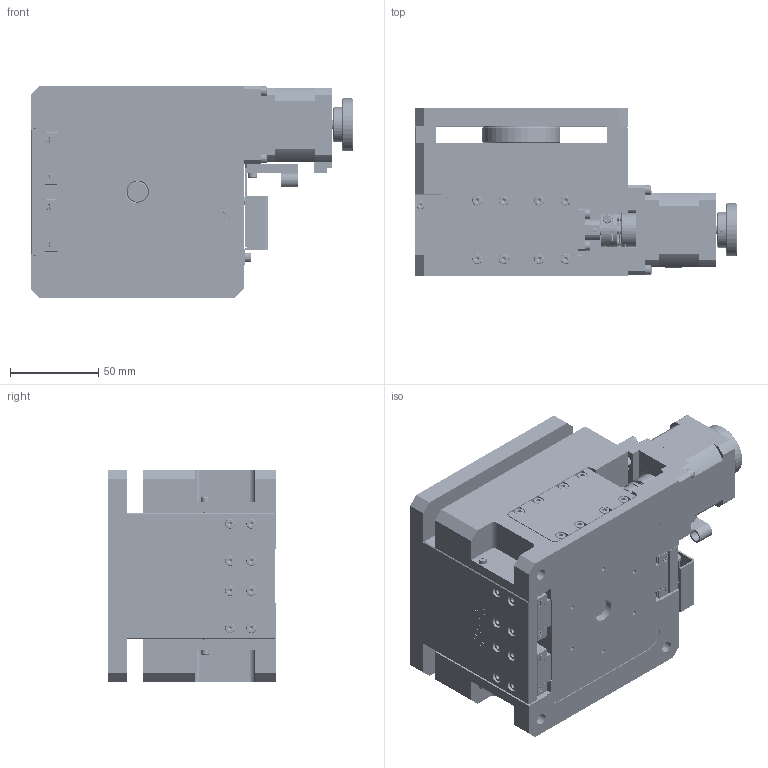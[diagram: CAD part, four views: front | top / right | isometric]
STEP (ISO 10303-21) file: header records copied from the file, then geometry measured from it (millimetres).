
FILE_DESCRIPTION (( 'STEP AP203' ), '1' );
FILE_NAME ('CZF20-120.STEP', '2026-07-06T02:52:48', ( 'Windows 蚚誧' ), ( 'Organization' ), 'SwSTEP 2.0', 'SolidWorks 2021', '' );
FILE_SCHEMA (( 'CONFIG_CONTROL_DESIGN' ));
Length unit declared in the file: millimetre
Products named in the file (40): TBRF75L-04-恘裝殤; CZF20-120-13-恘裝; deep groove ball bearings gb_Rolling bearings 619-6 GB 276-94; CZF20-120; hexagon socket head cap screws gb_GB_FASTENER_SCREWS_HSHCS M3X6-N; hexagon socket head cap screws gb_GB_FASTENER_SCREWS_HSHCS M3X8-N; hexagon socket head cap screws gb_GB_FASTENER_SCREWS_HSHCS M2.5X8-N; hexagon socket head cap screws gb_GB_FASTENER_SCREWS_HSHCS M3X12-N; CZF20-120-10-粣創傷裔; hexagon socket head cap screws gb_GB_FASTENER_SCREWS_HSHCS M3X16-N; CZF20-120-02-怢醱; hexagon socket head cap screws gb_GB_FASTENER_SCREWS_HSHCS M3X10-N; M2.5X10+6-肣蹟翐; cross recessed cheese head screws type a gb_GB_CROSS_SCREWS_TYPE135 M3X4-N; XRU2012; angular contact ball bearings gb_Rolling bearings S706 GB 292-94; CZF20-120-01-菁釱; CZF20-120-14-盄擢嘐隅啣; CZF20-120-03-湮耜啣; TBX30-90-11-忒謫; CZF20-120-11-癹弇裔啣; hexagon socket head cap screws gb_GB_FASTENER_SCREWS_HSHCS M4X6-N; hexagon socket head cap screws gb_GB_FASTENER_SCREWS_HSHCS M4X16-N; CZF20-120-09-42萇儂啣; plain washers--product grade c gb_GB_FASTENER_WASHER_SMWC 4; MSD9M-20130320-絳寢; CZF20-120-08-佪話坶譫; CZF20-120-05-恘謫; 8.4R-R倰盄諶; MSD9M-20130320-賑輸; CZF20-120-06-幗紩佪話; TBRF75L-07-坶譫; CZF20-120-07-蛌諉啣; LK5-C19-0505; CZF20-120-04-苤耜啣; SFV01205-佪話蹟譫-TBI; CZF20-120-D1.0; hexagon socket head cap screws gb_GB_FASTENER_SCREWS_HSHCS M3X5-N; SST43D2126-10-陓襯42祭輛萇儂; CZF20-120-12-嫖戲え
Assembly tree (107 placements, depth 2):
  CZF20-120
    CZF20-120-01-菁釱
    CZF20-120-02-怢醱
    CZF20-120-03-湮耜啣
    CZF20-120-04-苤耜啣
    CZF20-120-05-恘謫
    CZF20-120-06-幗紩佪話
    SFV01205-佪話蹟譫-TBI
    CZF20-120-07-蛌諉啣
    CZF20-120-08-佪話坶譫
    CZF20-120-09-42萇儂啣
    CZF20-120-10-粣創傷裔
    CZF20-120-11-癹弇裔啣
    CZF20-120-12-嫖戲え
    CZF20-120-13-恘裝
    CZF20-120-14-盄擢嘐隅啣
    MSD9M-20130320-絳寢  x3
    MSD9M-20130320-賑輸  x3
    TBRF75L-04-恘裝殤
    TBRF75L-07-坶譫
    TBX30-90-11-忒謫
    XRU2012
    deep groove ball bearings gb_Rolling bearings 619-6 GB 276-94
    angular contact ball bearings gb_Rolling bearings S706 GB 292-94  x2
    M2.5X10+6-肣蹟翐  x2
    LK5-C19-0505
    hexagon socket head cap screws gb_GB_FASTENER_SCREWS_HSHCS M4X16-N  x4
    SST43D2126-10-陓襯42祭輛萇儂
    hexagon socket head cap screws gb_GB_FASTENER_SCREWS_HSHCS M3X16-N  x23
    hexagon socket head cap screws gb_GB_FASTENER_SCREWS_HSHCS M2.5X8-N  x2
    cross recessed cheese head screws type a gb_GB_CROSS_SCREWS_TYPE135 M3X4-N  x2
    hexagon socket head cap screws gb_GB_FASTENER_SCREWS_HSHCS M3X5-N  x2
    hexagon socket head cap screws gb_GB_FASTENER_SCREWS_HSHCS M3X6-N  x12
    hexagon socket head cap screws gb_GB_FASTENER_SCREWS_HSHCS M3X10-N  x6
    hexagon socket head cap screws gb_GB_FASTENER_SCREWS_HSHCS M3X12-N  x6
    hexagon socket head cap screws gb_GB_FASTENER_SCREWS_HSHCS M3X8-N  x14
    8.4R-R倰盄諶
    plain washers--product grade c gb_GB_FASTENER_WASHER_SMWC 4
    hexagon socket head cap screws gb_GB_FASTENER_SCREWS_HSHCS M4X6-N
    CZF20-120-D1.0
Bounding box: 181.88 x 95 x 120 mm (x, y, z)
Volume: 1129446 mm3; surface area: 302280.8 mm2
Topology: 107 solids, 130 shells, 5740 faces, 14981 edges, 9432 vertices
Faces by surface type: plane 2745, cylinder 1736, cone 700, torus 290, bspline 195, sphere 74
Entity records: 140151 total; most frequent: CARTESIAN_POINT 49613, ORIENTED_EDGE 18354, DIRECTION 16154, EDGE_CURVE 9205, VERTEX_POINT 6024, AXIS2_PLACEMENT_3D 5805, LINE 4544, VECTOR 4544
